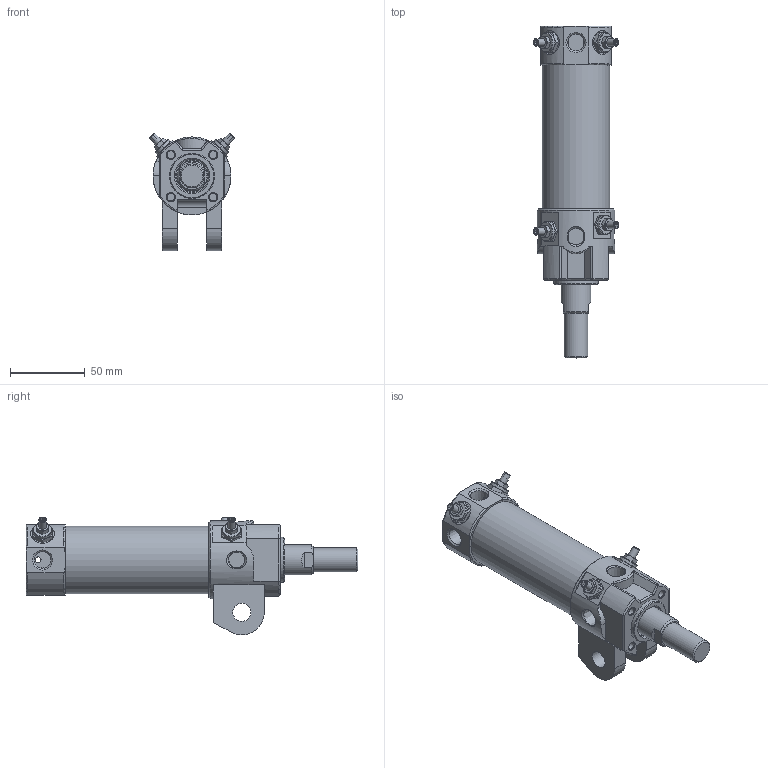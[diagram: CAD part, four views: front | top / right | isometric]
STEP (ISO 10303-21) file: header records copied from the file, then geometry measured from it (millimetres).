
FILE_DESCRIPTION((''),'2;1');
FILE_NAME('I:\3D電子目錄\氣缸\DCK\DCK\DCK-1B-40x50.stp','2008-02-25T16:09:09',('Administrator'),(''),'Autodesk Inventor 11','Autodesk Inventor 11','');
FILE_SCHEMA(('AUTOMOTIVE_DESIGN { 1 0 10303 214 1 1 1 1 }'));
Length unit declared in the file: millimetre
Products named in the file (1): DCK-1B-40
Bounding box: 57.13 x 221.5 x 78.56 mm (x, y, z)
Volume: 188947.9 mm3; surface area: 78724 mm2
Topology: 11 solids, 11 shells, 524 faces, 1220 edges, 764 vertices
Faces by surface type: bspline 161, plane 148, cylinder 127, cone 59, torus 27, sphere 2
Full cylindrical faces by diameter (mm): 2 x1, 3 x3, 3.8 x2, 4 x4, 4.6 x2, 5 x6, 5.1 x4, 5.2 x2, 7 x1, 7.25 x1, 8 x2, 8.3 x1, 10 x2, 12 x2, 12.8 x2, 16 x2, 20 x1, 21 x1, 22 x3, 23 x1, 24.7 x1, 26 x1, 28 x1, 29 x1, 30 x1, 33 x1, 40 x1, 42 x2, 45 x1, 52 x1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
Entity records: 24458 total; most frequent: CARTESIAN_POINT 14210, ORIENTED_EDGE 2104, DIRECTION 1851, EDGE_CURVE 1052, AXIS2_PLACEMENT_3D 764, EDGE_LOOP 730, VERTEX_POINT 724, FACE_OUTER_BOUND 522
